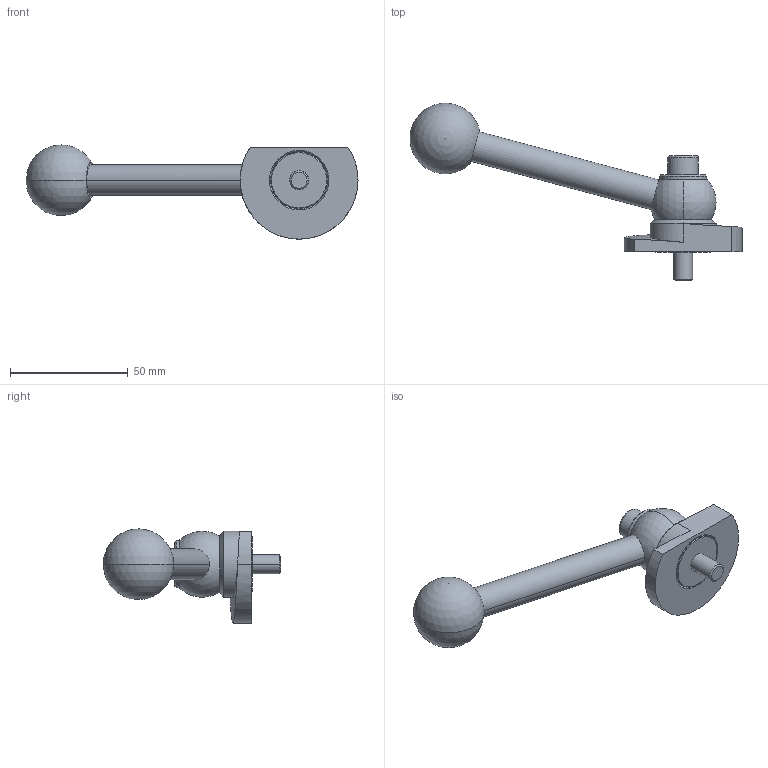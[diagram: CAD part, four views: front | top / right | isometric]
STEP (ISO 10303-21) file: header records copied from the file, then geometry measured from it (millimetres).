
FILE_DESCRIPTION (( 'STEP AP214' ), '1' );
FILE_NAME ('918.1-50-KVS-L-12.step', '2024-05-15T13:02:09', ( '' ), ( '' ), 'SwSTEP 2.0', 'SolidWorks 2022', '' );
FILE_SCHEMA (( 'AUTOMOTIVE_DESIGN' ));
Length unit declared in the file: millimetre
Products named in the file (1): 918.1-50-KVS-L-12
Bounding box: 140.94 x 75.31 x 40 mm (x, y, z)
Volume: 52061 mm3; surface area: 15791.3 mm2
Topology: 1 solids, 1 shells, 62 faces, 140 edges, 88 vertices
Faces by surface type: plane 20, cylinder 19, cone 14, sphere 4, bspline 3, torus 2
Entity records: 2001 total; most frequent: CARTESIAN_POINT 613, DIRECTION 305, ORIENTED_EDGE 260, EDGE_CURVE 130, AXIS2_PLACEMENT_3D 125, VERTEX_POINT 82, EDGE_LOOP 74, CIRCLE 65
